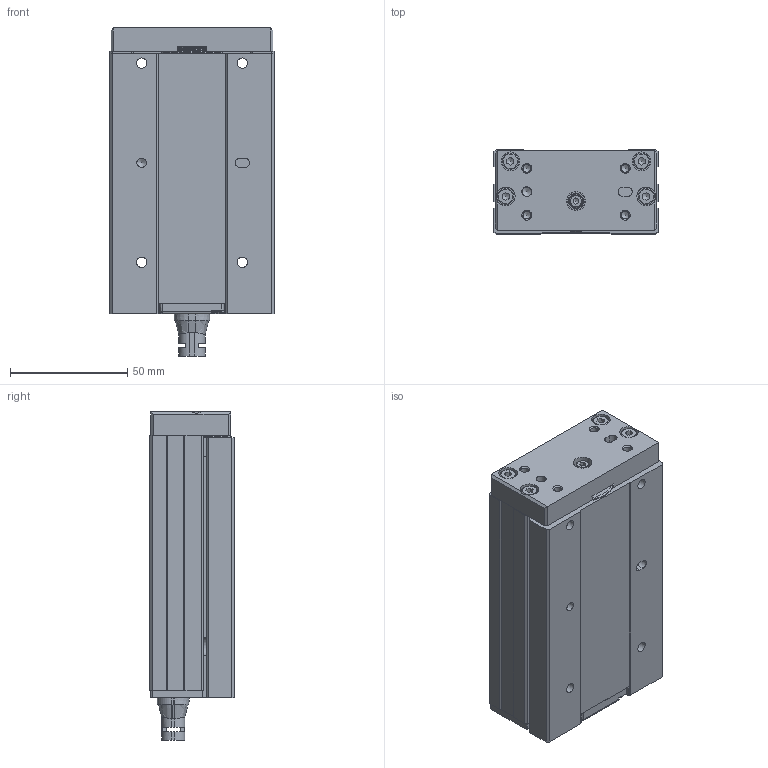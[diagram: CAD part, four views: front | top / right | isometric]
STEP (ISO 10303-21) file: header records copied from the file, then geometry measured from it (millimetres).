
FILE_DESCRIPTION((''),'2;1');
FILE_NAME('C:\Users\RD_15\Desktop\DMG25-50.stp','2020-10-20T09:36:36',('RD_15'),(''),'Autodesk Inventor 2013','Autodesk Inventor 2013','');
FILE_SCHEMA(('AUTOMOTIVE_DESIGN { 1 0 10303 214 1 1 1 1 }'));
Length unit declared in the file: millimetre
Products named in the file (54): DMG25-50; DMG25-50本體; 零件1552; 零件1554; 零件1628; 零件1630; 零件1636; 零件1638; 零件1640; 零件1642; 零件1644; 零件1646; 零件1650; 零件1654; 零件1658; 零件1662; 零件1666; 零件1668; 零件1670; 零件1672; 零件1674; 零件1676; 零件1678; 零件1680; 零件1684; 零件1688; 零件1690; 零件1692; 零件1694; 零件1696; 零件1698; 零件1702; 零件1704; 零件1706; 零件1708; 零件1710; 零件1712; 零件1714; 零件1716; 零件1718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
Assembly tree (54 placements, depth 2):
  DMG25-50
    DMG25-50本體
    零件1552
    零件1554
    零件1628
    零件1630
    零件1636
    零件1638
    零件1640
    零件1642
    零件1644
    零件1646
    零件1650
    零件1654
    零件1658
    零件1662
    零件1666
    零件1668
    零件1670
    零件1672
    零件1674
    零件1676
    零件1678
    零件1680
    零件1684
    零件1688
    零件1690
    零件1692
    零件1694
    零件1696
    零件1698  x2
    零件1702
    零件1704
    零件1706
    零件1708
    零件1710
    零件1712
    零件1714
    零件1716
    零件1718
    零件1720
    零件1724
    零件1726
    零件1728
    零件1732
    零件1736
    零件1738
    零件1740
    零件1742
    零件1744
    零件1746
    零件1694_MIR
    零件1694_MIR1
    零件1694_MIR_MIR
Bounding box: 70 x 36 x 140 mm (x, y, z)
Volume: 263533.5 mm3; surface area: 93188.5 mm2
Topology: 54 solids, 61 shells, 2142 faces, 5536 edges, 3575 vertices
Faces by surface type: plane 1336, cone 338, cylinder 330, torus 101, bspline 26, sphere 11
Full cylindrical faces by diameter (mm): 1.783 x6, 2 x6, 2.224 x8, 2.459 x4, 2.5 x8, 3 x15, 3.2 x2, 3.242 x12, 3.5 x5, 4 x7, 4.4 x4, 4.5 x4, 4.7 x8, 5.1 x2, 5.5 x1, 5.54 x4, 5.6 x2, 5.9 x2, 6.2 x2, 6.3 x1, 7 x6, 7.8 x4, 8 x10, 9 x1, 10 x1, 11 x1, 12.8 x1, 19 x1, 26 x1
Entity records: 71126 total; most frequent: CARTESIAN_POINT 18087, DIRECTION 10474, ORIENTED_EDGE 10274, EDGE_CURVE 5137, AXIS2_PLACEMENT_3D 3555, VERTEX_POINT 3479, VECTOR 3364, LINE 3364
